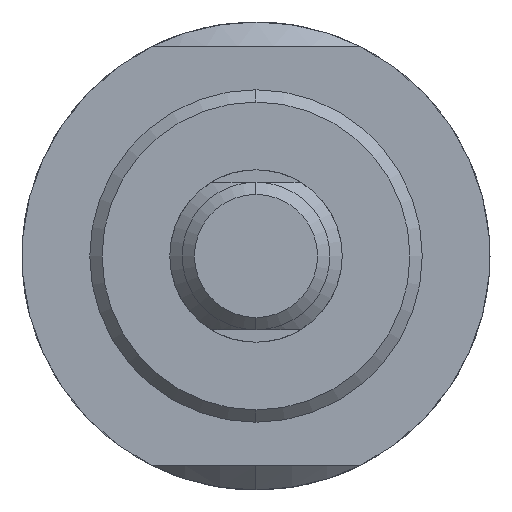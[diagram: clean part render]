
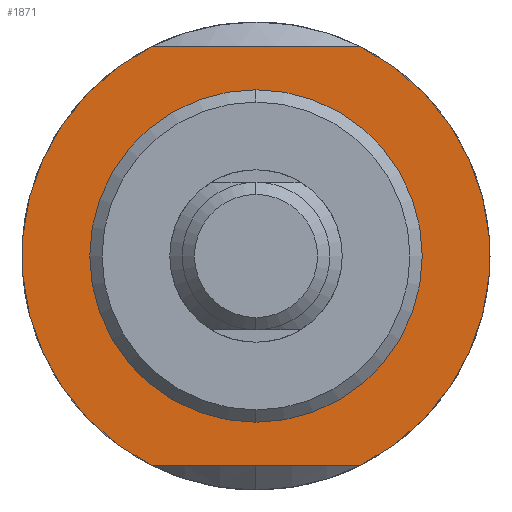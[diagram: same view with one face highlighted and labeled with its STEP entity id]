
A CAD part, left-side view. The second image highlights one B-rep face of the part: STEP entity #1871.
In plain terms, the highlighted planar face has unit normal (-1, 0, 0).
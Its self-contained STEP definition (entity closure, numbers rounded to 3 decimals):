
#9 = CARTESIAN_POINT ( 'NONE',  ( 48., 0., -13.5 ) ) ;
#54 = CARTESIAN_POINT ( 'NONE',  ( 48., 8.485, -17. ) ) ;
#57 = CARTESIAN_POINT ( 'NONE',  ( 48., 15., -17. ) ) ;
#87 = LINE ( 'NONE', #57, #1326 ) ;
#122 = DIRECTION ( 'NONE',  ( 0., 0., 1. ) ) ;
#133 = LINE ( 'NONE', #915, #901 ) ;
#149 = CARTESIAN_POINT ( 'NONE',  ( 48., 0., -19. ) ) ;
#225 = DIRECTION ( 'NONE',  ( 0., 1., 0. ) ) ;
#250 = FACE_OUTER_BOUND ( 'NONE', #598, .T. ) ;
#269 = ORIENTED_EDGE ( 'NONE', *, *, #1538, .F. ) ;
#309 = ORIENTED_EDGE ( 'NONE', *, *, #1939, .F. ) ;
#327 = DIRECTION ( 'NONE',  ( -1., 0., 0. ) ) ;
#373 = AXIS2_PLACEMENT_3D ( 'NONE', #1042, #811, #1593 ) ;
#457 = VERTEX_POINT ( 'NONE', #54 ) ;
#462 = CARTESIAN_POINT ( 'NONE',  ( 48., 0., 0. ) ) ;
#524 = CARTESIAN_POINT ( 'NONE',  ( 48., 0., 0. ) ) ;
#543 = EDGE_CURVE ( 'NONE', #690, #1931, #133, .T. ) ;
#584 = AXIS2_PLACEMENT_3D ( 'NONE', #149, #1362, #1262 ) ;
#598 = EDGE_LOOP ( 'NONE', ( #1029, #309, #1086, #1108 ) ) ;
#600 = AXIS2_PLACEMENT_3D ( 'NONE', #1199, #327, #657 ) ;
#630 = PLANE ( 'NONE',  #584 ) ;
#643 = VERTEX_POINT ( 'NONE', #1392 ) ;
#646 = EDGE_LOOP ( 'NONE', ( #269, #771 ) ) ;
#657 = DIRECTION ( 'NONE',  ( 0., 0., 1. ) ) ;
#690 = VERTEX_POINT ( 'NONE', #1523 ) ;
#702 = CARTESIAN_POINT ( 'NONE',  ( 48., -8.485, 17. ) ) ;
#743 = VERTEX_POINT ( 'NONE', #1933 ) ;
#771 = ORIENTED_EDGE ( 'NONE', *, *, #800, .F. ) ;
#800 = EDGE_CURVE ( 'NONE', #1397, #643, #1466, .T. ) ;
#811 = DIRECTION ( 'NONE',  ( -1., 0., 0. ) ) ;
#817 = DIRECTION ( 'NONE',  ( -1., 0., 0. ) ) ;
#832 = CIRCLE ( 'NONE', #600, 19. ) ;
#901 = VECTOR ( 'NONE', #1154, 1000. ) ;
#915 = CARTESIAN_POINT ( 'NONE',  ( 48., 15., 17. ) ) ;
#967 = FACE_BOUND ( 'NONE', #646, .T. ) ;
#1029 = ORIENTED_EDGE ( 'NONE', *, *, #1832, .T. ) ;
#1042 = CARTESIAN_POINT ( 'NONE',  ( 48., 0., 0. ) ) ;
#1086 = ORIENTED_EDGE ( 'NONE', *, *, #1389, .T. ) ;
#1108 = ORIENTED_EDGE ( 'NONE', *, *, #543, .F. ) ;
#1112 = CIRCLE ( 'NONE', #373, 13.5 ) ;
#1129 = DIRECTION ( 'NONE',  ( -1., 0., 0. ) ) ;
#1154 = DIRECTION ( 'NONE',  ( 0., -1., 0. ) ) ;
#1199 = CARTESIAN_POINT ( 'NONE',  ( 48., 0., 0. ) ) ;
#1262 = DIRECTION ( 'NONE',  ( 0., 0., -1. ) ) ;
#1326 = VECTOR ( 'NONE', #225, 1000. ) ;
#1362 = DIRECTION ( 'NONE',  ( 1., 0., 0. ) ) ;
#1374 = AXIS2_PLACEMENT_3D ( 'NONE', #524, #817, #122 ) ;
#1376 = DIRECTION ( 'NONE',  ( 0., 0., 1. ) ) ;
#1389 = EDGE_CURVE ( 'NONE', #743, #1931, #832, .T. ) ;
#1392 = CARTESIAN_POINT ( 'NONE',  ( 48., 0., 13.5 ) ) ;
#1397 = VERTEX_POINT ( 'NONE', #9 ) ;
#1466 = CIRCLE ( 'NONE', #1839, 13.5 ) ;
#1523 = CARTESIAN_POINT ( 'NONE',  ( 48., 8.485, 17. ) ) ;
#1538 = EDGE_CURVE ( 'NONE', #643, #1397, #1112, .T. ) ;
#1593 = DIRECTION ( 'NONE',  ( 0., 0., 1. ) ) ;
#1832 = EDGE_CURVE ( 'NONE', #690, #457, #1837, .T. ) ;
#1837 = CIRCLE ( 'NONE', #1374, 19. ) ;
#1839 = AXIS2_PLACEMENT_3D ( 'NONE', #462, #1129, #1376 ) ;
#1871 = ADVANCED_FACE ( 'NONE', ( #967, #250 ), #630, .F. ) ;
#1931 = VERTEX_POINT ( 'NONE', #702 ) ;
#1933 = CARTESIAN_POINT ( 'NONE',  ( 48., -8.485, -17. ) ) ;
#1939 = EDGE_CURVE ( 'NONE', #743, #457, #87, .T. ) ;
